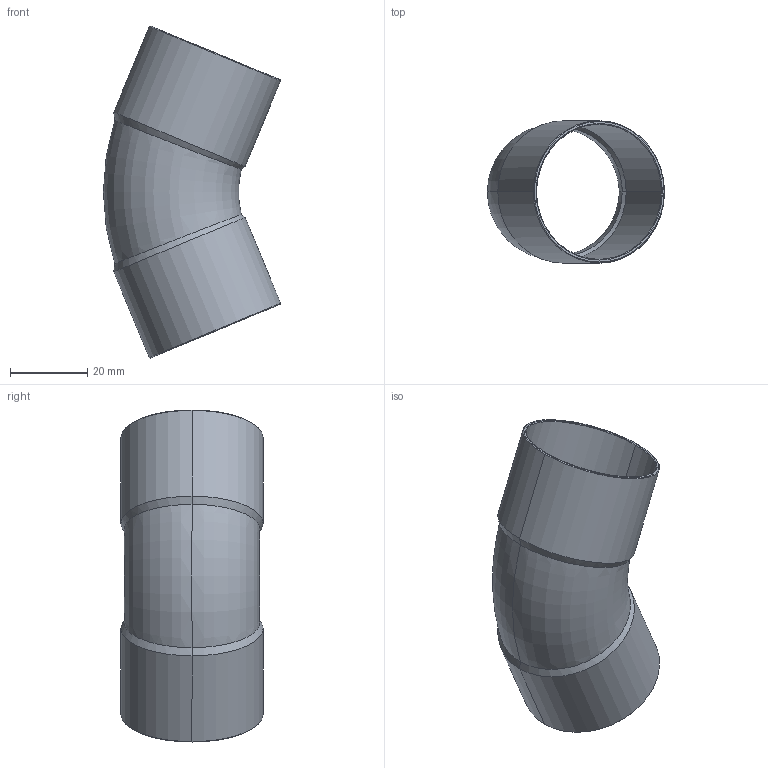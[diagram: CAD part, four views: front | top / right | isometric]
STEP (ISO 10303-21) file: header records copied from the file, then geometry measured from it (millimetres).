
FILE_DESCRIPTION((''),'2;1');
FILE_NAME('P:\Bouwmaten\z-maattekeningen 3D\5000\5040\1504135.stp','2005-10-12T15:28:52',('Kris'),(''),'Autodesk Inventor 8','Autodesk Inventor 8','');
FILE_SCHEMA(('AUTOMOTIVE_DESIGN { 1 0 10303 214 1 1 1 1 }'));
Length unit declared in the file: millimetre
Products named in the file (1): 1504135
Bounding box: 45.89 x 36.8 x 85.99 mm (x, y, z)
Volume: 7635.5 mm3; surface area: 17137.8 mm2
Topology: 1 solids, 1 shells, 30 faces, 60 edges, 32 vertices
Faces by surface type: cone 12, bspline 9, torus 4, cylinder 4, plane 1
Entity records: 1027 total; most frequent: CARTESIAN_POINT 414, DIRECTION 124, ORIENTED_EDGE 120, EDGE_CURVE 60, AXIS2_PLACEMENT_3D 50, VERTEX_POINT 32, EDGE_LOOP 32, FACE_OUTER_BOUND 30
